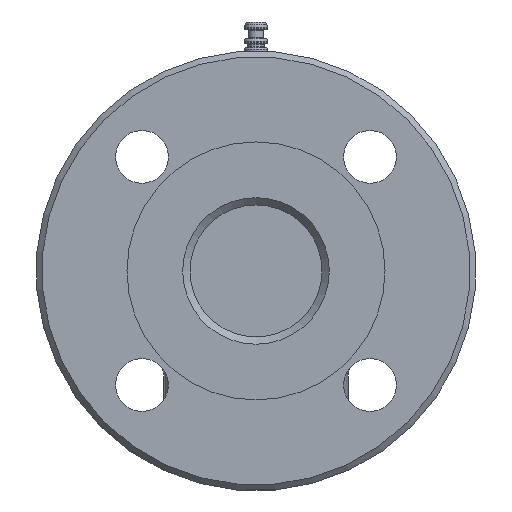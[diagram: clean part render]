
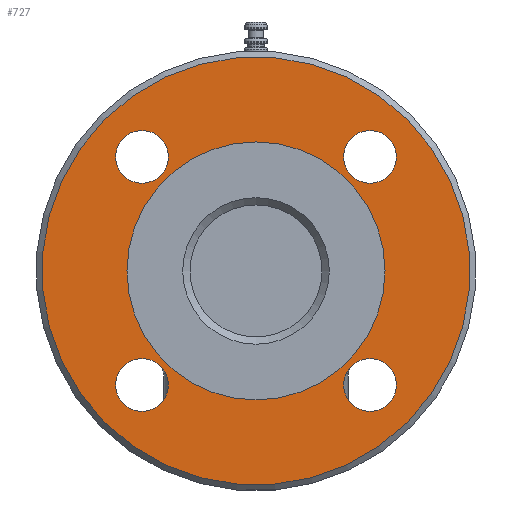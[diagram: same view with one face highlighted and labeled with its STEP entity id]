
A CAD part, left-side view. The second image highlights one B-rep face of the part: STEP entity #727.
In plain terms, the highlighted planar face has unit normal (-1, 0, 0).
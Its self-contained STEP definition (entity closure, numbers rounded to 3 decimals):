
#334=FACE_BOUND('',#1165,.T.);
#335=FACE_BOUND('',#1166,.T.);
#336=FACE_BOUND('',#1167,.T.);
#337=FACE_BOUND('',#1168,.T.);
#338=FACE_BOUND('',#1169,.T.);
#339=FACE_BOUND('',#1170,.T.);
#547=PLANE('',#2990);
#727=ADVANCED_FACE('',(#334,#335,#336,#337,#338,#339),#547,.T.);
#1165=EDGE_LOOP('',(#1969));
#1166=EDGE_LOOP('',(#1970));
#1167=EDGE_LOOP('',(#1971));
#1168=EDGE_LOOP('',(#1972));
#1169=EDGE_LOOP('',(#1973));
#1170=EDGE_LOOP('',(#1974));
#1330=CIRCLE('',#2946,44.);
#1351=CIRCLE('',#2985,73.);
#1352=CIRCLE('',#2986,9.);
#1353=CIRCLE('',#2987,9.);
#1354=CIRCLE('',#2988,9.);
#1355=CIRCLE('',#2989,9.);
#1969=ORIENTED_EDGE('',*,*,#2544,.T.);
#1970=ORIENTED_EDGE('',*,*,#2517,.T.);
#1971=ORIENTED_EDGE('',*,*,#2545,.T.);
#1972=ORIENTED_EDGE('',*,*,#2546,.T.);
#1973=ORIENTED_EDGE('',*,*,#2547,.T.);
#1974=ORIENTED_EDGE('',*,*,#2548,.T.);
#2206=VERTEX_POINT('',#10752);
#2225=VERTEX_POINT('',#10822);
#2226=VERTEX_POINT('',#10824);
#2227=VERTEX_POINT('',#10826);
#2228=VERTEX_POINT('',#10828);
#2229=VERTEX_POINT('',#10830);
#2517=EDGE_CURVE('',#2206,#2206,#1330,.T.);
#2544=EDGE_CURVE('',#2225,#2225,#1351,.T.);
#2545=EDGE_CURVE('',#2226,#2226,#1352,.T.);
#2546=EDGE_CURVE('',#2227,#2227,#1353,.T.);
#2547=EDGE_CURVE('',#2228,#2228,#1354,.T.);
#2548=EDGE_CURVE('',#2229,#2229,#1355,.T.);
#2946=AXIS2_PLACEMENT_3D('',#10751,#3619,#3620);
#2985=AXIS2_PLACEMENT_3D('',#10821,#3701,#3702);
#2986=AXIS2_PLACEMENT_3D('',#10823,#3703,#3704);
#2987=AXIS2_PLACEMENT_3D('',#10825,#3705,#3706);
#2988=AXIS2_PLACEMENT_3D('',#10827,#3707,#3708);
#2989=AXIS2_PLACEMENT_3D('',#10829,#3709,#3710);
#2990=AXIS2_PLACEMENT_3D('',#10831,#3711,#3712);
#3619=DIRECTION('',(1.,0.,0.));
#3620=DIRECTION('',(0.,0.,1.));
#3701=DIRECTION('',(-1.,0.,0.));
#3702=DIRECTION('',(0.,0.707,0.707));
#3703=DIRECTION('',(1.,0.,0.));
#3704=DIRECTION('',(0.,-0.707,0.707));
#3705=DIRECTION('',(1.,0.,0.));
#3706=DIRECTION('',(0.,0.707,0.707));
#3707=DIRECTION('',(1.,0.,0.));
#3708=DIRECTION('',(0.,0.707,-0.707));
#3709=DIRECTION('',(1.,0.,0.));
#3710=DIRECTION('',(0.,-0.707,-0.707));
#3711=DIRECTION('',(-1.,0.,0.));
#3712=DIRECTION('',(0.,0.707,0.707));
#10751=CARTESIAN_POINT('',(3.,0.,100.));
#10752=CARTESIAN_POINT('',(3.,0.,144.));
#10821=CARTESIAN_POINT('',(3.,0.,100.));
#10822=CARTESIAN_POINT('',(3.,51.619,151.619));
#10823=CARTESIAN_POINT('',(3.,38.891,138.891));
#10824=CARTESIAN_POINT('',(3.,32.527,145.255));
#10825=CARTESIAN_POINT('',(3.,38.891,61.109));
#10826=CARTESIAN_POINT('',(3.,45.255,67.473));
#10827=CARTESIAN_POINT('',(3.,-38.891,61.109));
#10828=CARTESIAN_POINT('',(3.,-32.527,54.745));
#10829=CARTESIAN_POINT('',(3.,-38.891,138.891));
#10830=CARTESIAN_POINT('',(3.,-45.255,132.527));
#10831=CARTESIAN_POINT('',(3.,0.,100.));
